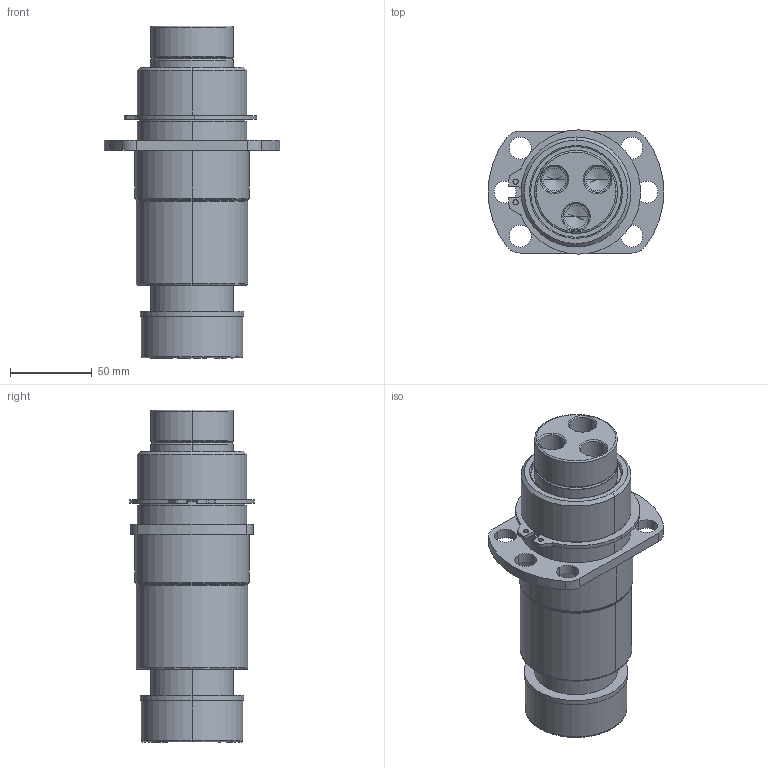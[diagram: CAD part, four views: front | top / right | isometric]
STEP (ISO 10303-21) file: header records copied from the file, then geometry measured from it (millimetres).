
FILE_DESCRIPTION (( 'STEP AP214' ), '1' );
FILE_NAME ('GK205-N5-2-TB-M-XXX.STEP', '2020-09-22T14:03:18', ( '' ), ( '' ), 'SwSTEP 2.0', 'SolidWorks 2017', '' );
FILE_SCHEMA (( 'AUTOMOTIVE_DESIGN' ));
Length unit declared in the file: inch
Products named in the file (7): GK205-N5-2-TB-M-XXX; GK2.00-N5-2-TB-Base; GK205-DampeningWasher; GK205-M-XXX-GuidePin; RetainingRing
Assembly tree (6 placements, depth 3):
  GK205-N5-2-TB-M-XXX
    GK2.00-N5-2-TB-Base
      GK2.00-N5-2-TB-Base
      RetainingRing
    GK205-M-XXX-GuidePin
      GK205-M-XXX-GuidePin
      GK205-DampeningWasher
Bounding box: 107.7 x 76.06 x 203.2 mm (x, y, z)
Volume: 652052.7 mm3; surface area: 113134.9 mm2
Topology: 4 solids, 4 shells, 136 faces, 328 edges, 203 vertices
Faces by surface type: cylinder 68, cone 24, bspline 22, plane 22
Entity records: 4922 total; most frequent: CARTESIAN_POINT 1252, DIRECTION 758, ORIENTED_EDGE 644, EDGE_CURVE 322, AXIS2_PLACEMENT_3D 321, VERTEX_POINT 203, CIRCLE 196, EDGE_LOOP 165
